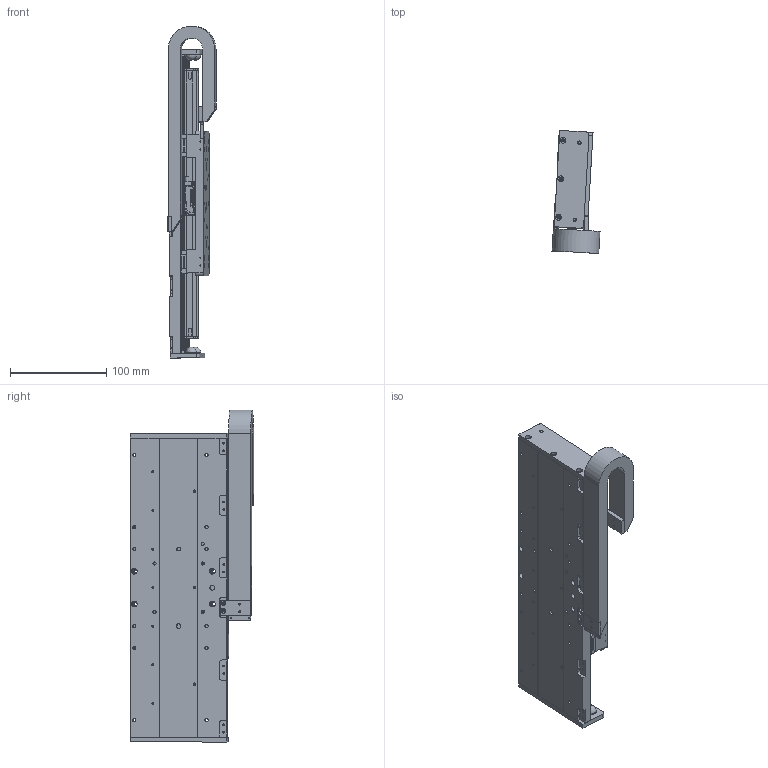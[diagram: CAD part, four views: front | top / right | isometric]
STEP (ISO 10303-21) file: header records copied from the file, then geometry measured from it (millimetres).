
FILE_DESCRIPTION(/* description */ ('MSR100 BASE'),/* implementation_level */ '2;1');
FILE_NAME(/* name */ 'I:\FY15 Projects\MSR\MSR100\Web Step Models\mSR100L-150XLDXXXXXXCM13.stp',/* time_stamp */ '2015-02-18T13:24:26-05:00',/* author */ ('BF20108'),/* organization */ (''),/* preprocessor_version */ 'ST-DEVELOPER v15.2',/* originating_system */ 'Autodesk Inventor 2014',/* authorisation */ '');
FILE_SCHEMA (('AUTOMOTIVE_DESIGN { 1 0 10303 214 3 1 1 }'));
Products named in the file (18): 102-5710-05; 003-3562-37; 102-5702-04; ml18-120m-n; ml18-80m-n; 102-5703-01; 102-5705-01; 002-3740-05; 003-3561; 003-5000; 102-5708; ML18-5E; 002-3740-long-carriage-assy; mx100-mcb; mx100-scb; e045-16-018-carrier-09; 002-3740-cbl-carr-lc-02; 002-3740
Bounding box: 49.76 x 127.64 x 344.13 mm (x, y, z)
Volume: 624289.4 mm3; surface area: 290188.4 mm2
Topology: 24 solids, 25 shells, 2352 faces, 6349 edges, 4107 vertices
Faces by surface type: plane 1245, cylinder 832, cone 151, torus 112, bspline 8, sphere 4
Full cylindrical faces by diameter (mm): 0.5 x8, 1 x4, 1.567 x75, 1.588 x2, 2.007 x18, 2.013 x11, 2.135 x4, 2.4 x42, 2.459 x21, 2.5 x20, 2.642 x4, 2.75 x1, 3 x23, 3.242 x10, 3.4 x25, 3.505 x4, 4 x4, 4.17 x2, 4.2 x43, 4.5 x18, 5 x9, 5.08 x2, 6 x29, 11.176 x4
Entity records: 56006 total; most frequent: CARTESIAN_POINT 10626, DIRECTION 9399, ORIENTED_EDGE 8766, EDGE_CURVE 4371, AXIS2_PLACEMENT_3D 3298, VERTEX_POINT 3044, LINE 2803, VECTOR 2803
